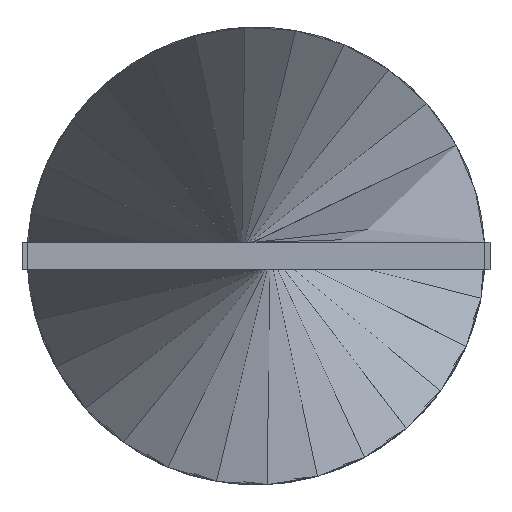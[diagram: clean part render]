
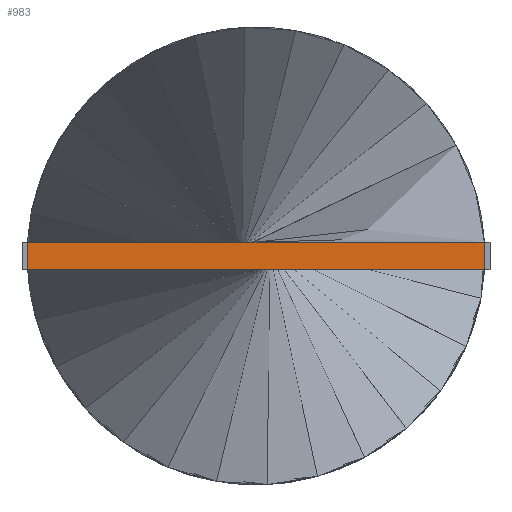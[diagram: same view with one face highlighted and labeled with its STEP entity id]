
A CAD part, front view. The second image highlights one B-rep face of the part: STEP entity #983.
In plain terms, the highlighted planar face has unit normal (0, -1, 0).
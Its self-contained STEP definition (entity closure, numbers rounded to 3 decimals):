
#12 = VECTOR ( 'NONE', #792, 1000. ) ;
#25 = EDGE_LOOP ( 'NONE', ( #735, #1313, #1156, #1097 ) ) ;
#63 = DIRECTION ( 'NONE',  ( 0., 0., 1. ) ) ;
#87 = FACE_OUTER_BOUND ( 'NONE', #25, .T. ) ;
#93 = VECTOR ( 'NONE', #947, 1000. ) ;
#131 = LINE ( 'NONE', #911, #93 ) ;
#232 = CARTESIAN_POINT ( 'NONE',  ( -12.4, 0., -0.75 ) ) ;
#256 = EDGE_CURVE ( 'NONE', #1450, #463, #1222, .T. ) ;
#341 = VECTOR ( 'NONE', #63, 1000. ) ;
#435 = EDGE_CURVE ( 'NONE', #1450, #1002, #1413, .T. ) ;
#463 = VERTEX_POINT ( 'NONE', #900 ) ;
#471 = CARTESIAN_POINT ( 'NONE',  ( 12.4, 0., -0.75 ) ) ;
#617 = LINE ( 'NONE', #824, #12 ) ;
#629 = CARTESIAN_POINT ( 'NONE',  ( -12.4, 0., -0.75 ) ) ;
#735 = ORIENTED_EDGE ( 'NONE', *, *, #1142, .T. ) ;
#762 = DIRECTION ( 'NONE',  ( 1., 0., 0. ) ) ;
#792 = DIRECTION ( 'NONE',  ( 1., 0., 0. ) ) ;
#815 = CARTESIAN_POINT ( 'NONE',  ( -12.4, 0., -0.75 ) ) ;
#824 = CARTESIAN_POINT ( 'NONE',  ( -12.4, 0., 0.75 ) ) ;
#898 = CARTESIAN_POINT ( 'NONE',  ( -12.4, 0., -0.75 ) ) ;
#900 = CARTESIAN_POINT ( 'NONE',  ( -12.4, 0., 0.75 ) ) ;
#911 = CARTESIAN_POINT ( 'NONE',  ( 12.4, 0., -0.75 ) ) ;
#912 = PLANE ( 'NONE',  #1306 ) ;
#947 = DIRECTION ( 'NONE',  ( 0., 0., 1. ) ) ;
#974 = EDGE_CURVE ( 'NONE', #463, #1081, #617, .T. ) ;
#983 = ADVANCED_FACE ( 'NONE', ( #87 ), #912, .T. ) ;
#1002 = VERTEX_POINT ( 'NONE', #471 ) ;
#1081 = VERTEX_POINT ( 'NONE', #1361 ) ;
#1083 = VECTOR ( 'NONE', #762, 1000. ) ;
#1097 = ORIENTED_EDGE ( 'NONE', *, *, #435, .T. ) ;
#1136 = DIRECTION ( 'NONE',  ( 0., 0., -1. ) ) ;
#1142 = EDGE_CURVE ( 'NONE', #1002, #1081, #131, .T. ) ;
#1156 = ORIENTED_EDGE ( 'NONE', *, *, #256, .F. ) ;
#1222 = LINE ( 'NONE', #629, #341 ) ;
#1306 = AXIS2_PLACEMENT_3D ( 'NONE', #898, #1381, #1136 ) ;
#1313 = ORIENTED_EDGE ( 'NONE', *, *, #974, .F. ) ;
#1361 = CARTESIAN_POINT ( 'NONE',  ( 12.4, 0., 0.75 ) ) ;
#1381 = DIRECTION ( 'NONE',  ( 0., -1., 0. ) ) ;
#1413 = LINE ( 'NONE', #815, #1083 ) ;
#1450 = VERTEX_POINT ( 'NONE', #232 ) ;
